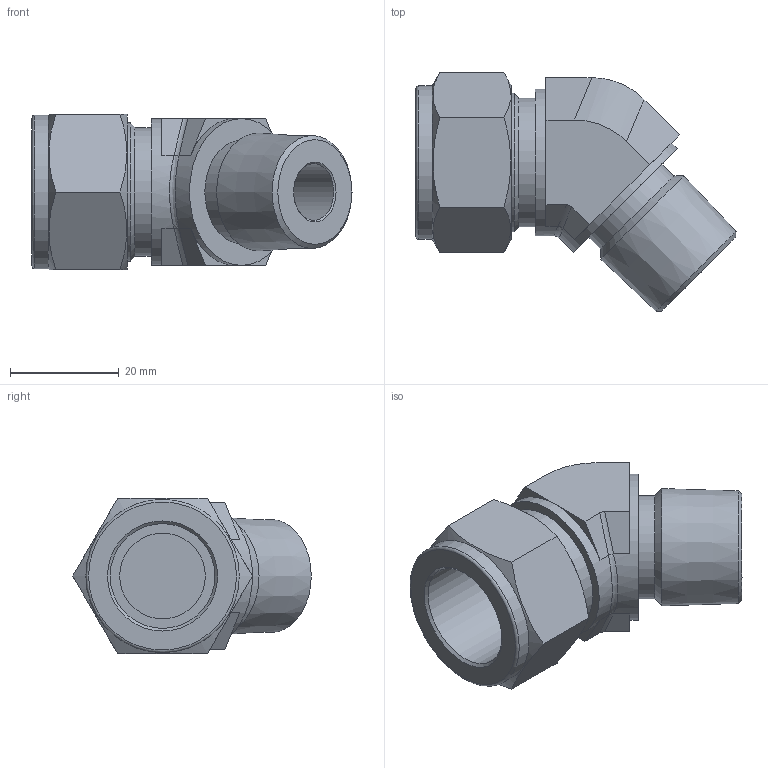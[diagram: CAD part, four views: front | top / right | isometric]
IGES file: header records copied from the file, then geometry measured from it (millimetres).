
Global section: file name: No Iges File Name specified; native system: Autodesk Inventor 2012; preprocessor: AutoDesk Inventor Iges Exporter R2012; author: 硅己绕,,1; organization: 1; date: 20150603.092038; units: millimetre
Bounding box: 58.83 x 43.83 x 28.57 mm (x, y, z)
Volume: 22975.3 mm3; surface area: 9047.1 mm2
Topology: 1 solids, 1 shells, 58 faces, 123 edges, 74 vertices
Faces by surface type: plane 35, cylinder 8, revolution 7, cone 6, bspline 1, torus 1
Full cylindrical faces by diameter (mm): 19 x1, 23.7 x1, 25.4 x1, 27 x2, 28.2 x1
